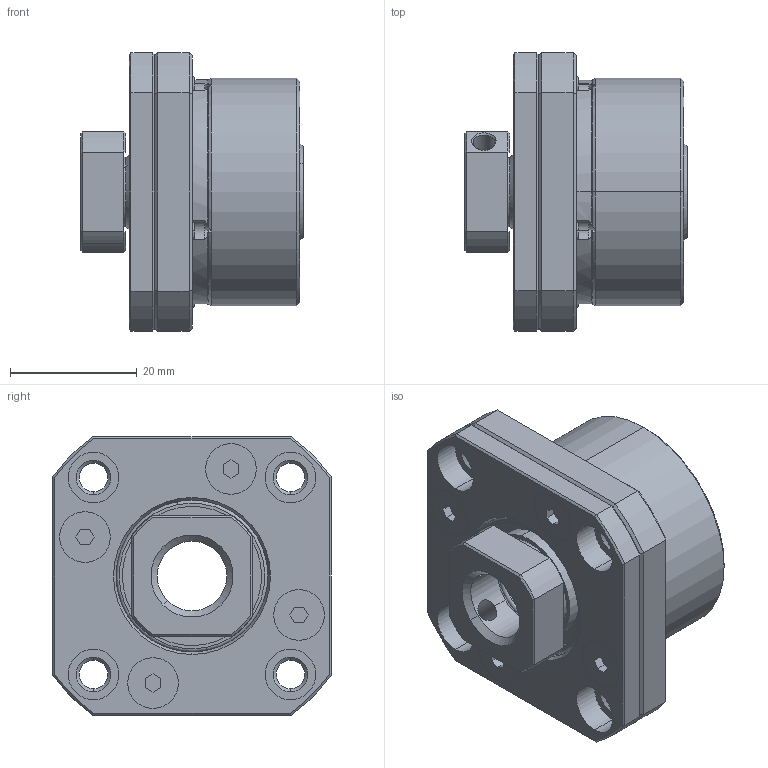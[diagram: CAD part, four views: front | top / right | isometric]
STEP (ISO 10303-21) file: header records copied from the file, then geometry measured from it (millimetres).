
FILE_DESCRIPTION (( 'STEP AP203' ), '1' );
FILE_NAME ('FK12²Õ¦XA.STEP', '2017-12-28T05:36:25', ( '' ), ( '' ), 'SwSTEP 2.0', 'SolidWorks 2017', '' );
FILE_SCHEMA (( 'CONFIG_CONTROL_DESIGN' ));
Length unit declared in the file: millimetre
Products named in the file (1): FK12組合A
Bounding box: 35.1 x 44 x 44 mm (x, y, z)
Surface area: 13871.6 mm2 (no closed solid volume)
Topology: 0 solids, 18 shells, 264 faces, 687 edges, 441 vertices
Faces by surface type: plane 87, cylinder 82, cone 60, torus 31, bspline 4
Entity records: 8958 total; most frequent: CARTESIAN_POINT 2377, DIRECTION 1429, ORIENTED_EDGE 1243, EDGE_CURVE 687, AXIS2_PLACEMENT_3D 589, VERTEX_POINT 441, CIRCLE 328, EDGE_LOOP 314
